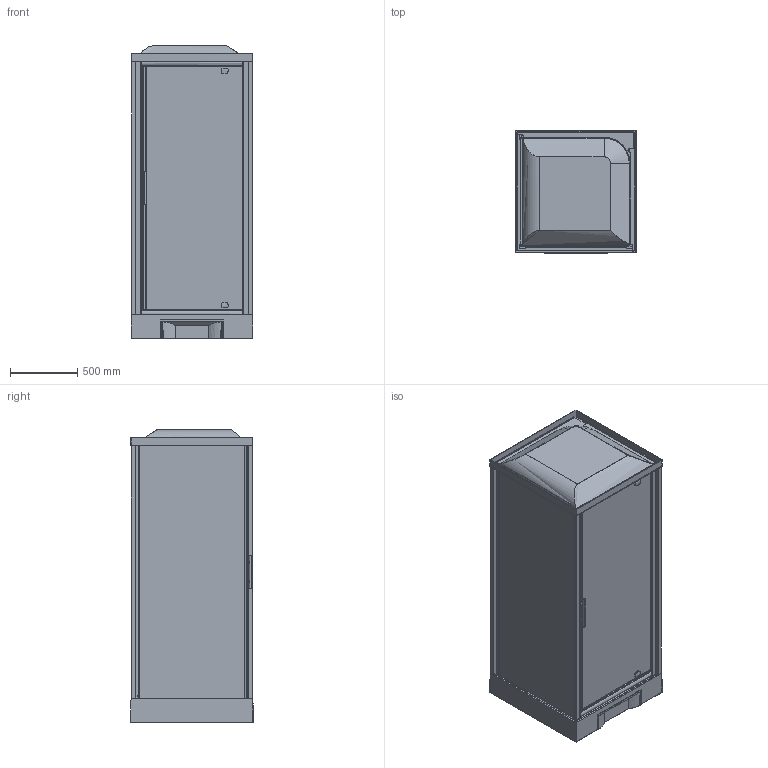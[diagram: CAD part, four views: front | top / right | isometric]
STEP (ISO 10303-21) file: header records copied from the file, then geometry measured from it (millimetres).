
FILE_DESCRIPTION(('STEP AP203'),'2;1');
FILE_NAME('NNH GF 90 T T.stp','2015-09-04T15:23:23',(''),(''),'2014.1.117','THINKDESIGN','');
FILE_SCHEMA(('CONFIG_CONTROL_DESIGN'));
Length unit declared in the file: millimetre
Products named in the file (1): top
Bounding box: 904 x 907.51 x 2170 mm (x, y, z)
Volume: 209854250.6 mm3; surface area: 20531902.7 mm2
Topology: 27 solids, 27 shells, 670 faces, 1684 edges, 1069 vertices
Faces by surface type: bspline 386, plane 216, cylinder 68
Entity records: 87540 total; most frequent: CARTESIAN_POINT 74256, ORIENTED_EDGE 3316, EDGE_CURVE 1658, DIRECTION 1621, VERTEX_POINT 1061, VECTOR 729, LINE 729, EDGE_LOOP 687
